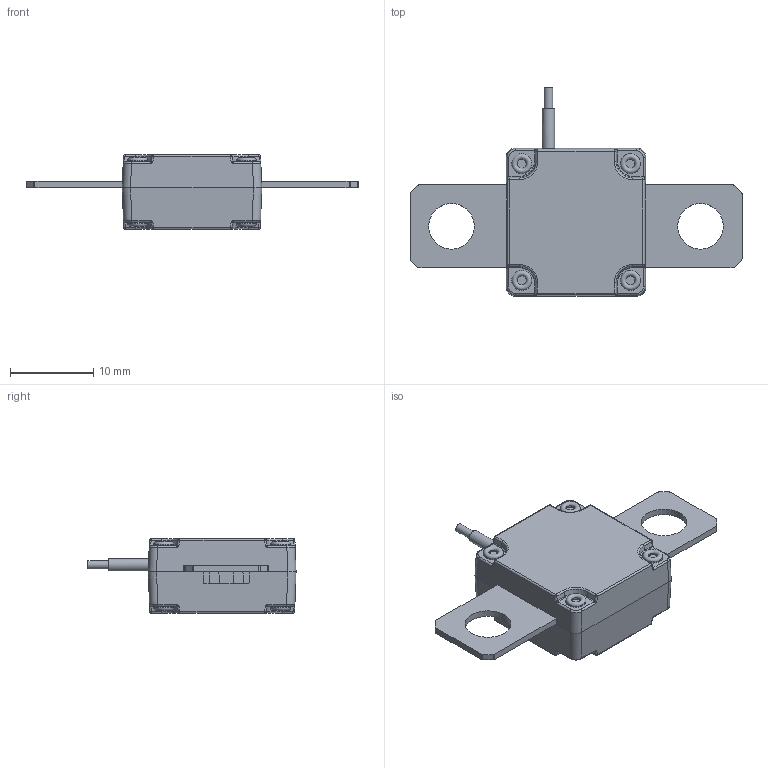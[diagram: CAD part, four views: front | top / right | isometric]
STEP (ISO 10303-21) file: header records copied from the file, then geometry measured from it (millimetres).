
FILE_DESCRIPTION(/* description */ ('Unknown'),/* implementation_level */ '2;1');
FILE_NAME(/* name */ 'SKT-yx',/* time_stamp */ '2026-08-05T17:03:40+08:00',/* author */ ('Unknown'),/* organization */ ('Unknown'),/* preprocessor_version */ 'ST-DEVELOPER v16.7',/* originating_system */ 'Solid Edge',/* authorisation */ 'Unknown');
FILE_SCHEMA (('AUTOMOTIVE_DESIGN {1 0 10303 214 3 1 1}'));
Length unit declared in the file: millimetre
Products named in the file (1): SKT-yx
Bounding box: 40 x 25.07 x 9 mm (x, y, z)
Volume: 2722.6 mm3; surface area: 1725.8 mm2
Topology: 1 solids, 6 shells, 331 faces, 766 edges, 456 vertices
Faces by surface type: cylinder 127, plane 120, torus 36, bspline 24, sphere 16, cone 8
Full cylindrical faces by diameter (mm): 1 x1, 1.1 x8, 1.5 x9, 2 x8, 2.4 x8, 5.5 x2
Entity records: 11933 total; most frequent: CARTESIAN_POINT 2484, DIRECTION 1488, ORIENTED_EDGE 1394, EDGE_CURVE 697, AXIS2_PLACEMENT_3D 559, VERTEX_POINT 439, EDGE_LOOP 404, FACE_BOUND 404
